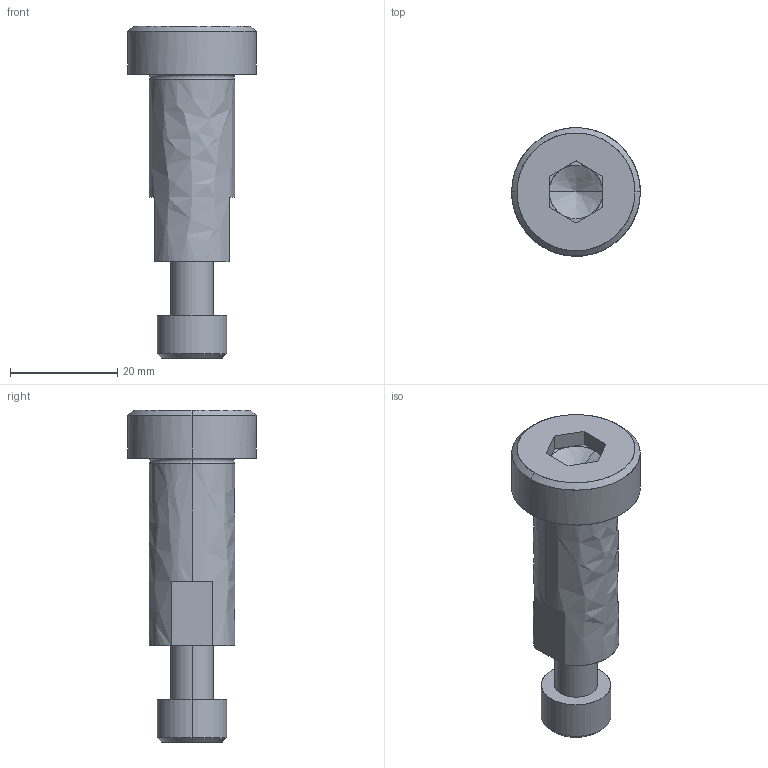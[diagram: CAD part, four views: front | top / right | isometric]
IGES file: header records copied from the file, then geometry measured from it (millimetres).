
Global section: file name: E:\UnigraphicsGraphicData\MISUMI_PRESS-PARTS\IGES\3d_sbt16-35_05084_r00.igs; native system: NX V5.0; preprocessor: UGS NX IGES V5.0; author: MISUMI; date: 20110105.162436; units: millimetre
Bounding box: 24 x 24 x 62 mm (x, y, z)
Surface area: 5355.7 mm2 (no closed solid volume)
Topology: 0 solids, 0 shells, 56 faces, 310 edges, 306 vertices
Faces by surface type: bspline 56
